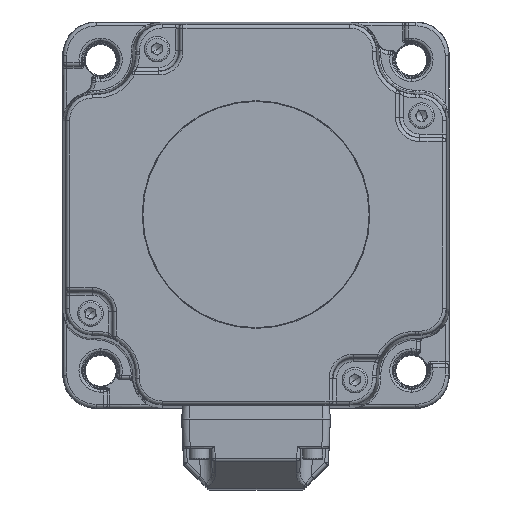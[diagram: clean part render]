
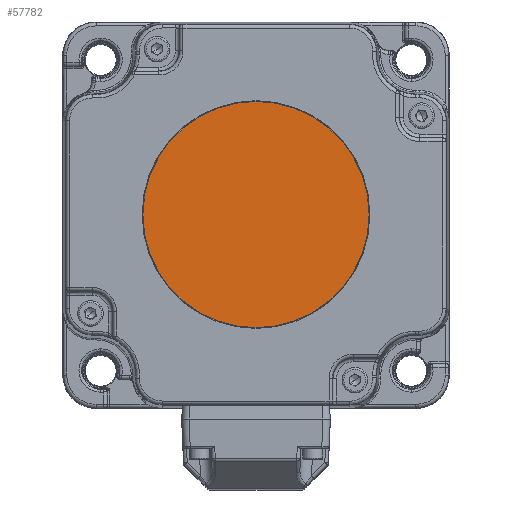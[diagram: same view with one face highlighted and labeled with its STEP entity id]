
A CAD part, top view. The second image highlights one B-rep face of the part: STEP entity #57782.
In plain terms, the highlighted planar face has unit normal (0, 0, 1) as drawn and (0, -1, 0) by its records, which use the part's own axes.
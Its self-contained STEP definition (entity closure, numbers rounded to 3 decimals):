
#1826 = DIRECTION ( 'NONE',  ( 0., -1., 0. ) ) ;
#12080 = DIRECTION ( 'NONE',  ( 0., 0., -1. ) ) ;
#14131 = CARTESIAN_POINT ( 'NONE',  ( 0., -91.1, 30.9 ) ) ;
#14501 = CARTESIAN_POINT ( 'NONE',  ( 0., -91.1, 0. ) ) ;
#19577 = PLANE ( 'NONE',  #71107 ) ;
#30510 = VERTEX_POINT ( 'NONE', #69670 ) ;
#32312 = DIRECTION ( 'NONE',  ( 0., 0., -1. ) ) ;
#41329 = CIRCLE ( 'NONE', #54099, 30.9 ) ;
#43115 = EDGE_CURVE ( 'NONE', #30510, #61455, #41329, .T. ) ;
#44981 = DIRECTION ( 'NONE',  ( 0., -1., 0. ) ) ;
#50036 = CARTESIAN_POINT ( 'NONE',  ( 0., -91.1, 0. ) ) ;
#52371 = AXIS2_PLACEMENT_3D ( 'NONE', #70247, #1826, #32312 ) ;
#54099 = AXIS2_PLACEMENT_3D ( 'NONE', #14501, #44981, #75458 ) ;
#55465 = EDGE_LOOP ( 'NONE', ( #62321, #96177 ) ) ;
#57782 = ADVANCED_FACE ( 'NONE', ( #88061 ), #19577, .T. ) ;
#60909 = EDGE_CURVE ( 'NONE', #61455, #30510, #95501, .T. ) ;
#61455 = VERTEX_POINT ( 'NONE', #14131 ) ;
#62321 = ORIENTED_EDGE ( 'NONE', *, *, #43115, .T. ) ;
#69670 = CARTESIAN_POINT ( 'NONE',  ( 0., -91.1, -30.9 ) ) ;
#70247 = CARTESIAN_POINT ( 'NONE',  ( 0., -91.1, 0. ) ) ;
#71107 = AXIS2_PLACEMENT_3D ( 'NONE', #50036, #80542, #12080 ) ;
#75458 = DIRECTION ( 'NONE',  ( 0., 0., -1. ) ) ;
#80542 = DIRECTION ( 'NONE',  ( 0., -1., 0. ) ) ;
#88061 = FACE_OUTER_BOUND ( 'NONE', #55465, .T. ) ;
#95501 = CIRCLE ( 'NONE', #52371, 30.9 ) ;
#96177 = ORIENTED_EDGE ( 'NONE', *, *, #60909, .T. ) ;
